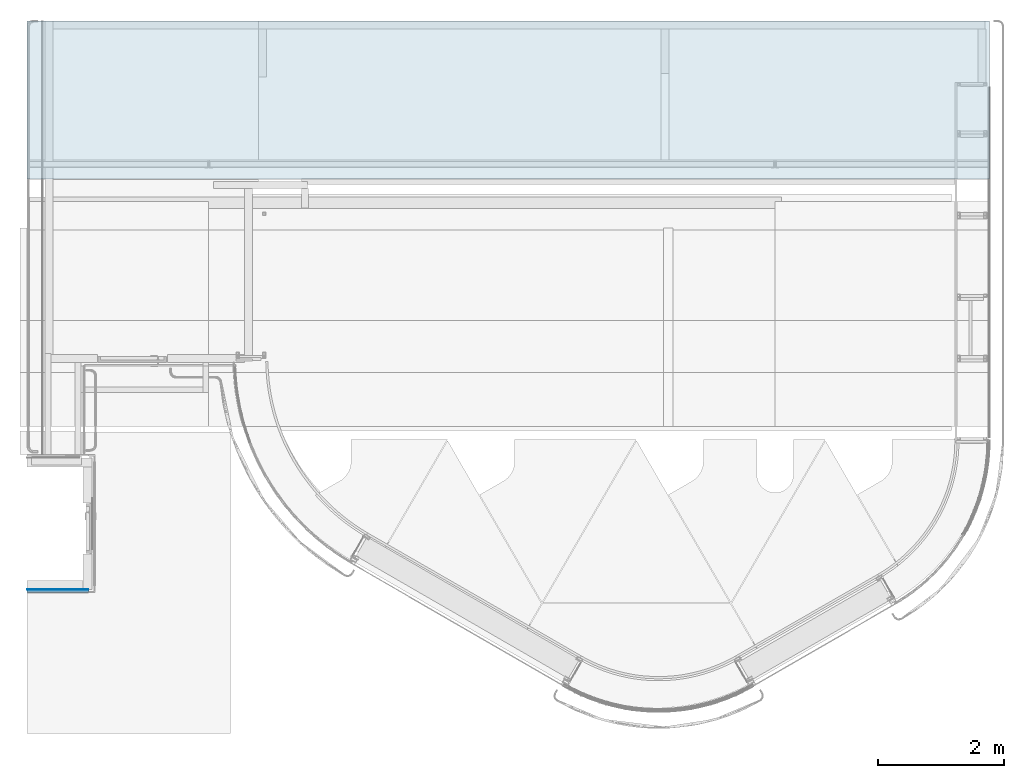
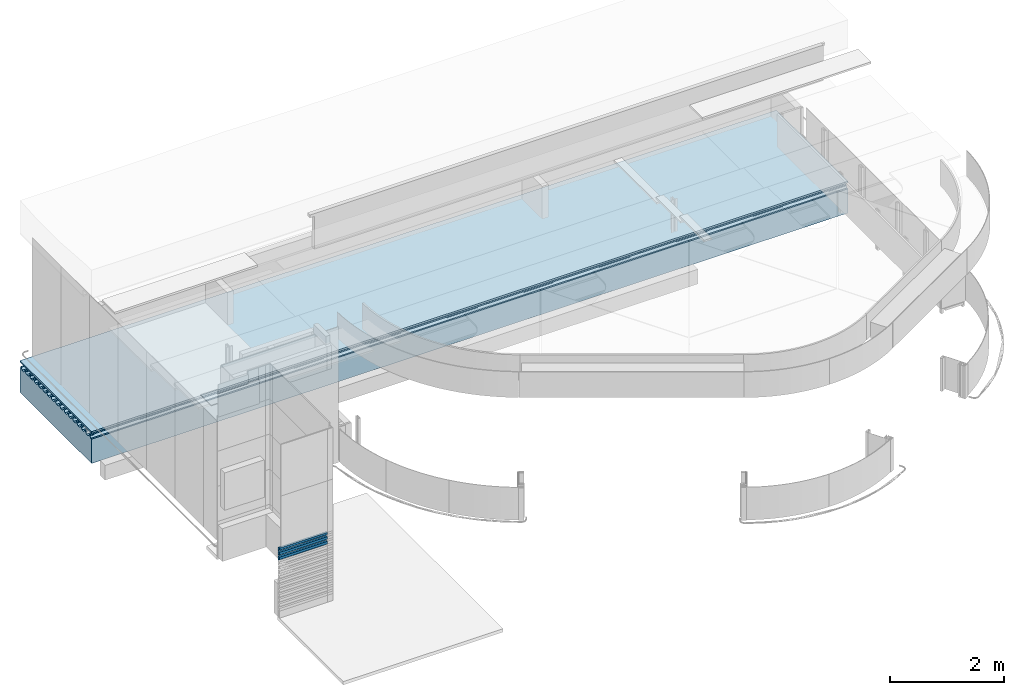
# One storey, part 13 of 18: 6 plates, 1 slab, 1 element without a shape of its own.
"""IFC2X3 building model written with IfcOpenShell, lengths in millimetres."""

import ifcopenshell
import ifcopenshell.guid

model = None  # the IFC model being written
_history = None  # IfcOwnerHistory: only IFC2X3 demands one
_inside = {}  # id of a spatial element -> (the spatial element, [elements in it])
_under = {}  # id of a project, library or spatial element -> (it, [spatial elements below it])
_declared = {}  # id of a project -> (the project, [libraries it declares])
_typed = {}  # id of a type object -> (the type object, [elements of that type])
_made_of = {}  # id of a material, layer set ... -> (it, [elements and type objects made of it])


def new_model(schema):
    """Start an empty IFC model of exactly this schema.

    Asked for "IFC4X3", IfcOpenShell would pick the latest addendum, in which some entities
    have other attributes; the version numbers below select the first issue.
    IFC2X3 requires an IfcOwnerHistory on every rooted entity: one is made here for all.
    """
    global model, _history
    if schema == "IFC4X3":
        model = ifcopenshell.file(schema_version=(4, 3, 0, 0))
    else:
        model = ifcopenshell.file(schema=schema)
    _inside.clear()
    _under.clear()
    _declared.clear()
    _typed.clear()
    _made_of.clear()
    _history = None
    if model.schema == "IFC2X3":
        org = make("IfcOrganization", Name="unknown")
        user = make(
            "IfcPersonAndOrganization",
            ThePerson=make("IfcPerson", FamilyName="unknown"),
            TheOrganization=org,
        )
        app = make(
            "IfcApplication",
            ApplicationDeveloper=org,
            Version="unknown",
            ApplicationFullName="unknown",
            ApplicationIdentifier="unknown",
        )
        _history = make(
            "IfcOwnerHistory",
            OwningUser=user,
            OwningApplication=app,
            ChangeAction="ADDED",
            CreationDate=0,
        )
    return model


def make(cls, **values):
    """One entity of the class cls with the attributes given. An attribute that is None is left unset."""
    return model.create_entity(
        cls, **{name: value for name, value in values.items() if value is not None}
    )


def entity(cls, *values):
    """Any entity or typed value of the class cls, its attributes in the order of the schema. None: left unset."""
    e = model.create_entity(cls)
    for i, value in enumerate(values):
        if value is not None:
            e[i] = value
    return e


def rooted(cls, **values):
    """An entity with a GlobalId (a new one), such as an element, a storey or a relation."""
    return make(cls, GlobalId=ifcopenshell.guid.new(), OwnerHistory=_history, **values)


def si_unit(unit_type, name, prefix=None):
    """IfcSIUnit, for example si_unit("LENGTHUNIT", "METRE", prefix="MILLI")."""
    return make("IfcSIUnit", UnitType=unit_type, Prefix=prefix, Name=name)


def converted_unit(unit_type, name, factor, base, dimensions=None, offset=None):
    """IfcConversionBasedUnit, such as the inch: factor (a typed value) times the base unit."""
    return make(
        "IfcConversionBasedUnit"
        if offset is None
        else "IfcConversionBasedUnitWithOffset",
        ConversionOffset=offset,
        Dimensions=None
        if dimensions is None
        else entity("IfcDimensionalExponents", *dimensions),
        UnitType=unit_type,
        Name=name,
        ConversionFactor=make(
            "IfcMeasureWithUnit", ValueComponent=factor, UnitComponent=base
        ),
    )


def derived_unit(unit_type, elements):
    """IfcDerivedUnit: a product of units, each with its exponent."""
    return make(
        "IfcDerivedUnit",
        Elements=[
            make("IfcDerivedUnitElement", Unit=unit, Exponent=power)
            for unit, power in elements
        ],
        UnitType=unit_type,
    )


def assignment(units):
    """IfcUnitAssignment: the units of a project."""
    return None if units is None else make("IfcUnitAssignment", Units=units)


def point(xyz):
    """IfcCartesianPoint."""
    return None if xyz is None else make("IfcCartesianPoint", Coordinates=xyz)


def direction(xyz):
    """IfcDirection."""
    return None if xyz is None else make("IfcDirection", DirectionRatios=xyz)


def frame(location, z_axis=None, x_axis=None):
    """IfcAxis2Placement3D, a coordinate frame: its origin and axes. An axis left out is left unset."""
    return make(
        "IfcAxis2Placement3D",
        Location=point(location),
        Axis=direction(z_axis),
        RefDirection=direction(x_axis),
    )


def origin_with_axes():
    """The frame at (0, 0, 0) with the z axis (0, 0, 1) and the x axis (1, 0, 0) written out."""
    return frame((0.0, 0.0, 0.0), z_axis=(0.0, 0.0, 1.0), x_axis=(1.0, 0.0, 0.0))


def place(relative_to, where):
    """IfcLocalPlacement: puts the frame where relative to a parent placement (None: the world)."""
    return make(
        "IfcLocalPlacement", PlacementRelTo=relative_to, RelativePlacement=where
    )


def context(
    kind, dimensions, precision=None, world=None, true_north=None, identifier=None
):
    """IfcGeometricRepresentationContext, for example the 3D "Model" context."""
    return make(
        "IfcGeometricRepresentationContext",
        ContextIdentifier=identifier,
        ContextType=kind,
        CoordinateSpaceDimension=dimensions,
        Precision=precision,
        WorldCoordinateSystem=world,
        TrueNorth=true_north,
    )


def subcontext(parent, identifier, kind, view, scale=None):
    """IfcGeometricRepresentationSubContext, for example "Body" below "Model"."""
    return make(
        "IfcGeometricRepresentationSubContext",
        ContextIdentifier=identifier,
        ContextType=kind,
        ParentContext=parent,
        TargetScale=scale,
        TargetView=view,
    )


def project(units=None, contexts=None):
    """IfcProject with its units and contexts."""
    return rooted(
        "IfcProject",
        Name="project",
        RepresentationContexts=contexts,
        UnitsInContext=assignment(units),
    )


def spatial(cls, under=None, at=None, **own):
    """A site, building, storey or space (cls), placed at a placement, below another one or the project."""
    s = rooted(cls, ObjectPlacement=at, **own)
    if under is not None:
        _under.setdefault(under.id(), (under, []))[1].append(s)
    return s


def faces_of(points, faces, orient=None, outer=None):
    """IfcFace entities. A face is a list of loops; a loop is a list of indices into points, from 0.

    orient and outer hold one flag for each loop. By default every Orientation is true, the
    first loop of a face is its IfcFaceOuterBound and the others are IfcFaceBound.
    """
    made = []
    for i, loops in enumerate(faces):
        bounds = []
        for j, loop in enumerate(loops):
            is_outer = j == 0 if outer is None else outer[i][j]
            bounds.append(
                make(
                    "IfcFaceOuterBound" if is_outer else "IfcFaceBound",
                    Bound=make("IfcPolyLoop", Polygon=[points[k] for k in loop]),
                    Orientation=True if orient is None else orient[i][j],
                )
            )
        made.append(make("IfcFace", Bounds=bounds))
    return made


def faceted_brep(points, faces, orient=None, outer=None, voids=None):
    """IfcFacetedBrep: a solid bounded by flat faces; with voids (closed shells), ...WithVoids."""
    shared = [point(p) for p in points]
    hull = make("IfcClosedShell", CfsFaces=faces_of(shared, faces, orient, outer))
    if voids is None:
        return make("IfcFacetedBrep", Outer=hull)
    return make(
        "IfcFacetedBrepWithVoids",
        Outer=hull,
        Voids=[
            make(cls, CfsFaces=faces_of(shared, fs, o, b)) for cls, fs, o, b in voids
        ],
    )


def shape(context_of_items, identifier, shape_type, items):
    """IfcShapeRepresentation: the items that make up one representation, for example the "Body"."""
    return make(
        "IfcShapeRepresentation",
        ContextOfItems=context_of_items,
        RepresentationIdentifier=identifier,
        RepresentationType=shape_type,
        Items=items,
    )


def material(Name=None, Category=None):
    """IfcMaterial."""
    return make("IfcMaterial", Name=Name, Category=Category)


def layer(
    of_material, thickness, ventilated=None, Name=None, Category=None, Priority=None
):
    """IfcMaterialLayer: one layer of a wall or slab, of a material (None: an air gap)."""
    return make(
        "IfcMaterialLayer",
        Material=of_material,
        LayerThickness=thickness,
        IsVentilated=ventilated,
        Name=Name,
        Category=Category,
        Priority=Priority,
    )


def layer_set(layers, Name=None):
    """IfcMaterialLayerSet."""
    return make("IfcMaterialLayerSet", MaterialLayers=layers, LayerSetName=Name)


def made_of(thing, what):
    """Note that an element or type object is made of a material, layer set ...; save() writes the relation."""
    if what is not None:
        _made_of.setdefault(what.id(), (what, []))[1].append(thing)
    return thing


def type_object(cls, material=None, **own):
    """A type object (cls), such as IfcWallType, which elements share."""
    return made_of(rooted(cls, **own), material)


def element(
    cls,
    number,
    at=None,
    inside=None,
    cuts=None,
    type_object=None,
    material=None,
    context=None,
    identifier="Body",
    shape_type=None,
    held_by="IfcProductDefinitionShape",
    body=None,
    shapes=None,
    **own,
):
    """One element of the class cls, such as IfcWall. Its Tag is "e" and its number.

    at: its placement. inside: the storey or other place that contains it. cuts: it is an
    opening in that element (IfcRelVoidsElement). A single representation is given by context,
    identifier, shape_type and body (its items); several are given by shapes. held_by: the class
    of the entity that holds the representations. save() writes the other relations.
    """
    e = rooted(cls, Tag="e%d" % number, ObjectPlacement=at, **own)
    if body is not None:
        shapes = [shape(context, identifier, shape_type, body)]
    if shapes is not None:
        e.Representation = make(held_by, Representations=shapes)
    if inside is not None:
        _inside.setdefault(inside.id(), (inside, []))[1].append(e)
    if cuts is not None:
        rooted(
            "IfcRelVoidsElement", RelatingBuildingElement=cuts, RelatedOpeningElement=e
        )
    if type_object is not None:
        _typed.setdefault(type_object.id(), (type_object, []))[1].append(e)
    return made_of(e, material)


def aggregate(whole, parts):
    """IfcRelAggregates: a whole, such as a stair, and the parts it consists of."""
    return rooted("IfcRelAggregates", RelatingObject=whole, RelatedObjects=parts)


def save(model, path):
    """Write the relations noted so far, then the file.

    IfcRelAggregates (storeys below a building ...), IfcRelContainedInSpatialStructure (elements
    in a storey), IfcRelDefinesByType, IfcRelAssociatesMaterial and IfcRelDeclares: one each for
    every whole, place, type object, material and project.
    """
    for whole, parts in _under.values():
        aggregate(whole, parts)
    for where, things in _inside.values():
        rooted(
            "IfcRelContainedInSpatialStructure",
            RelatedElements=things,
            RelatingStructure=where,
        )
    for kind, things in _typed.values():
        rooted("IfcRelDefinesByType", RelatedObjects=things, RelatingType=kind)
    for what, things in _made_of.values():
        rooted("IfcRelAssociatesMaterial", RelatedObjects=things, RelatingMaterial=what)
    for by, libraries in _declared.values():
        rooted("IfcRelDeclares", RelatingContext=by, RelatedDefinitions=libraries)
    model.write(path)


model = new_model("IFC2X3")

# Units and contexts
model_context = context("Model", 3, precision=0.01, world=frame((0.0, 4.29681676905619e-09, 0.0)), true_north=direction((4.01073788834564e-13, 1.0)))
plan_context = context("Plan", 3, precision=0.01, world=frame((0.0, 4.29681676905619e-09, 0.0)), true_north=direction((4.01073788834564e-13, 1.0)))
body_context = subcontext(model_context, "Body", "Model", "MODEL_VIEW")
ifc_project = project(units=[converted_unit("PLANEANGLEUNIT", "DEGREE", entity("IfcPositiveLengthMeasure", 0.0174532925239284), si_unit("PLANEANGLEUNIT", "RADIAN"), dimensions=[0, 0, 0, 0, 0, 0, 0]), si_unit("AREAUNIT", "SQUARE_METRE"), si_unit("LENGTHUNIT", "METRE", prefix="MILLI"), si_unit("MASSUNIT", "GRAM", prefix="KILO"), si_unit("POWERUNIT", "WATT"), si_unit("PRESSUREUNIT", "PASCAL"), si_unit("FORCEUNIT", "NEWTON", prefix="KILO"), si_unit("ELECTRICVOLTAGEUNIT", "VOLT"), si_unit("ELECTRICCURRENTUNIT", "AMPERE"), si_unit("THERMODYNAMICTEMPERATUREUNIT", "DEGREE_CELSIUS"), si_unit("TIMEUNIT", "SECOND"), si_unit("VOLUMEUNIT", "CUBIC_METRE"), derived_unit("LINEARVELOCITYUNIT", [(si_unit("LENGTHUNIT", "METRE"), 1), (si_unit("TIMEUNIT", "SECOND"), -1)]), derived_unit("VOLUMETRICFLOWRATEUNIT", [(si_unit("VOLUMEUNIT", "CUBIC_METRE"), 1), (si_unit("TIMEUNIT", "SECOND"), -1)]), derived_unit("THERMALTRANSMITTANCEUNIT", [(si_unit("POWERUNIT", "WATT"), 1), (si_unit("THERMODYNAMICTEMPERATUREUNIT", "KELVIN"), -1), (si_unit("AREAUNIT", "SQUARE_METRE"), -1)]), derived_unit("SOUNDPRESSUREUNIT", [(si_unit("PRESSUREUNIT", "PASCAL"), 1)])], contexts=[model_context, plan_context])

# Site, building, storey
site_placement = place(None, origin_with_axes())
site = spatial("IfcSite", under=ifc_project, at=site_placement, Name="ENGM", CompositionType="ELEMENT")
building_placement = place(site_placement, origin_with_axes())
building = spatial("IfcBuilding", under=site, at=building_placement, Name="TH", CompositionType="ELEMENT")
storey_placement = place(building_placement, frame((0.0, 0.0, 210200.0), z_axis=(0.0, 0.0, 1.0), x_axis=(1.0, 0.0, 0.0)))
storey = spatial("IfcBuildingStorey", under=building, at=storey_placement, Name="Nivå F - 0,7 m", CompositionType="ELEMENT", Elevation=210200.0)

# Curtain wall, plates
curtain_wall_type = type_object("IfcCurtainWallType", PredefinedType="NOTDEFINED")
curtain_wall_placement = place(storey_placement, frame((0.0, 0.0, -210200.0), z_axis=(0.0, 0.0, 1.0), x_axis=(1.0, 0.0, 0.0)))
curtain_wall = element("IfcCurtainWall", 1, at=curtain_wall_placement, inside=storey, type_object=curtain_wall_type)
ifc_material_1 = material(Name="T2_Tre Finerplate")
plate_type_1 = type_object("IfcPlateType", Name="System Panel:A245 - Trepanel eksisterende 2", PredefinedType="CURTAIN_PANEL", material=ifc_material_1)
plate_1_placement = place(curtain_wall_placement, frame((893499.999999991, 478322.727283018, 211450.0), z_axis=(0.0, 0.0, 1.0), x_axis=(-1.0, 0.0, 0.0)))
plate_1 = element("IfcPlate", 2, at=plate_1_placement, type_object=plate_type_1, Name="System Panel:A245 - Trepanel eksisterende 2", ObjectType="System Panel:A245 - Trepanel eksisterende 2", context=body_context, shape_type="Brep", body=[
    faceted_brep([(-1611.90616857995, 10.0, 0.0), (-1611.90616857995, 50.0, 0.0), (-2585.00000001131, 50.0, 0.0), (-2585.00000001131, 10.0, 0.0), (-2585.00000001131, 50.0, 55.0000000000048), (-2585.00000001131, 10.0, 55.0000000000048), (-1611.90616857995, 50.0, 55.0000000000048), (-1611.90616857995, 10.0, 55.0000000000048)], [[[0, 1, 2, 3]], [[3, 2, 4, 5]], [[6, 7, 5, 4]], [[7, 0, 3, 5]], [[1, 6, 4, 2]], [[7, 6, 1, 0]]], orient=[[False], [False], [False], [False], [False], [False]]),
])
plate_2_placement = place(curtain_wall_placement, frame((893499.999999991, 478322.727283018, 211550.0), z_axis=(0.0, 0.0, 1.0), x_axis=(-1.0, 0.0, 0.0)))
plate_2 = element("IfcPlate", 3, at=plate_2_placement, type_object=plate_type_1, Name="System Panel:A245 - Trepanel eksisterende 2", ObjectType="System Panel:A245 - Trepanel eksisterende 2", context=body_context, shape_type="Brep", body=[
    faceted_brep([(-1611.90616857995, 10.0, 0.0), (-1611.90616857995, 50.0, 0.0), (-2585.00000001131, 50.0, 0.0), (-2585.00000001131, 10.0, 0.0), (-2585.00000001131, 50.0, 55.0000000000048), (-2585.00000001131, 10.0, 55.0000000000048), (-1611.90616857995, 50.0, 55.0000000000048), (-1611.90616857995, 10.0, 55.0000000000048)], [[[0, 1, 2, 3]], [[3, 2, 4, 5]], [[6, 7, 5, 4]], [[7, 0, 3, 5]], [[1, 6, 4, 2]], [[7, 6, 1, 0]]], orient=[[False], [False], [False], [False], [False], [False]]),
])
ifc_material_2 = material(Name="_NSW Luftspalte")
plate_type_2 = type_object("IfcPlateType", Name="Empty System Panel:A234 - Empty System Panel", PredefinedType="CURTAIN_PANEL", material=ifc_material_2)
plate_3_placement = place(curtain_wall_placement, frame((893499.999999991, 478322.727283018, 211405.0), z_axis=(0.0, 0.0, 1.0), x_axis=(-1.0, 0.0, 0.0)))
plate_3 = element("IfcPlate", 4, at=plate_3_placement, type_object=plate_type_2, Name="Empty System Panel:A234 - Empty System Panel", ObjectType="Empty System Panel:A234 - Empty System Panel", context=body_context, shape_type="Brep", body=[
    faceted_brep([(-1611.90616857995, -0.5, 0.0), (-1611.90616857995, 0.5, 0.0), (-2585.00000001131, 0.5, 0.0), (-2585.00000001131, -0.5, 0.0), (-2585.00000001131, 0.5, 45.0000000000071), (-2585.00000001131, -0.5, 45.0000000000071), (-1611.90616857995, 0.5, 45.0000000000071), (-1611.90616857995, -0.5, 45.0000000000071)], [[[0, 1, 2, 3]], [[3, 2, 4, 5]], [[6, 7, 5, 4]], [[7, 0, 3, 5]], [[1, 6, 4, 2]], [[7, 6, 1, 0]]], orient=[[False], [False], [False], [False], [False], [False]]),
])
plate_4_placement = place(curtain_wall_placement, frame((893499.999999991, 478322.727283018, 211505.0), z_axis=(0.0, 0.0, 1.0), x_axis=(-1.0, 0.0, 0.0)))
plate_4 = element("IfcPlate", 5, at=plate_4_placement, type_object=plate_type_2, Name="Empty System Panel:A234 - Empty System Panel", ObjectType="Empty System Panel:A234 - Empty System Panel", context=body_context, shape_type="Brep", body=[
    faceted_brep([(-1611.90616857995, -0.5, 0.0), (-1611.90616857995, 0.5, 0.0), (-2585.00000001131, 0.5, 0.0), (-2585.00000001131, -0.5, 0.0), (-2585.00000001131, 0.5, 45.0000000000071), (-2585.00000001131, -0.5, 45.0000000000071), (-1611.90616857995, 0.5, 45.0000000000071), (-1611.90616857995, -0.5, 45.0000000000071)], [[[0, 1, 2, 3]], [[3, 2, 4, 5]], [[6, 7, 5, 4]], [[7, 0, 3, 5]], [[1, 6, 4, 2]], [[7, 6, 1, 0]]], orient=[[False], [False], [False], [False], [False], [False]]),
])
plate_5_placement = place(curtain_wall_placement, frame((893499.999999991, 478322.727283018, 211605.0), z_axis=(0.0, 0.0, 1.0), x_axis=(-1.0, 0.0, 0.0)))
plate_5 = element("IfcPlate", 6, at=plate_5_placement, type_object=plate_type_2, Name="Empty System Panel:A234 - Empty System Panel", ObjectType="Empty System Panel:A234 - Empty System Panel", context=body_context, shape_type="Brep", body=[
    faceted_brep([(-1611.90616857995, -0.5, 0.0), (-1611.90616857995, 0.5, 0.0), (-2585.00000001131, 0.5, 0.0), (-2585.00000001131, -0.5, 0.0), (-2585.00000001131, 0.5, 45.0000000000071), (-2585.00000001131, -0.5, 45.0000000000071), (-1611.90616857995, 0.5, 45.0000000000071), (-1611.90616857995, -0.5, 45.0000000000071)], [[[0, 1, 2, 3]], [[3, 2, 4, 5]], [[6, 7, 5, 4]], [[7, 0, 3, 5]], [[1, 6, 4, 2]], [[7, 6, 1, 0]]], orient=[[False], [False], [False], [False], [False], [False]]),
])
plate_type_3 = type_object("IfcPlateType", Name="System Panel:A245 - Trepanel eksisterende 2", PredefinedType="CURTAIN_PANEL", material=ifc_material_1)
plate_6_placement = place(curtain_wall_placement, frame((893499.999999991, 478322.727283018, 211650.0), z_axis=(0.0, 0.0, 1.0), x_axis=(-1.0, 0.0, 0.0)))
plate_6 = element("IfcPlate", 7, at=plate_6_placement, type_object=plate_type_3, Name="System Panel:A245 - Trepanel eksisterende 2", ObjectType="System Panel:A245 - Trepanel eksisterende 2", context=body_context, shape_type="Brep", body=[
    faceted_brep([(-1611.90616857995, 10.0, 0.0), (-1611.90616857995, 50.0, 0.0), (-2585.00000001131, 50.0, 0.0), (-2585.00000001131, 10.0, 0.0), (-2585.00000001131, 50.0, 45.0000000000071), (-2585.00000001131, 10.0, 45.0000000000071), (-1611.90616857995, 50.0, 45.0000000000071), (-1611.90616857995, 10.0, 45.0000000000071)], [[[0, 1, 2, 3]], [[3, 2, 4, 5]], [[6, 7, 5, 4]], [[7, 0, 3, 5]], [[1, 6, 4, 2]], [[7, 6, 1, 0]]], orient=[[False], [False], [False], [False], [False], [False]]),
])
aggregate(curtain_wall, [plate_3, plate_1, plate_4, plate_2, plate_5, plate_6])

# Slab
ifc_material_3 = material(Name="254 - Gulvoverflate - Limtre")
ifc_layer_1 = layer(ifc_material_3, 15.0)
ifc_material_4 = material(Name="254 - Gulvoppbygging - Påstøp")
ifc_layer_2 = layer(ifc_material_4, 20.0)
ifc_material_5 = material(Name="252 - Gulv på grunn - Isolasjon under dekke")
ifc_layer_3 = layer(ifc_material_5, 125.0)
ifc_material_6 = material(Name="252 - Gulv på grunn -  Brannisolasjon R90")
ifc_layer_4 = layer(ifc_material_6, 25.0)
ifc_material_7 = material(Name="252 - Gulv på grunn -  Bindingsverk med isolasjon")
ifc_layer_5 = layer(ifc_material_7, 220.0)
ifc_layer_6 = layer(ifc_material_7, 150.0)
ifc_material_8 = material(Name="252 - Gulv på grunn - GU-Plate")
ifc_layer_7 = layer(ifc_material_8, 9.0)
ifc_material_9 = material(Name="252 - Gulv på grunn - Luftspalte")
ifc_layer_8 = layer(ifc_material_9, 116.0)
ifc_layer_set = layer_set([ifc_layer_1, ifc_layer_2, ifc_layer_3, ifc_layer_4, ifc_layer_5, ifc_layer_6, ifc_layer_7, ifc_layer_8], Name="Floor:A250 - Gulv - 550mm")
slab_type = type_object("IfcSlabType", Name="Floor:A250 - Gulv - 550mm", PredefinedType="FLOOR", material=ifc_layer_set)
slab_placement = place(storey_placement, frame((895111.906168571, 484850.299999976, -680.0), z_axis=(0.0, 0.0, 1.0), x_axis=(1.0, 0.0, 0.0)))
element("IfcSlab", 8, at=slab_placement, inside=storey, type_object=slab_type, Name="Floor:A250 - Gulv - 550mm", ObjectType="Floor:A250 - Gulv - 550mm", PredefinedType="FLOOR", context=body_context, shape_type="Brep", body=[
    faceted_brep([(2.48292053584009e-10, 2507.35000003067, 644.999999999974), (2.48292053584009e-10, 2507.35000003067, 680.0), (-6.91215973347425e-11, 3.45607986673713e-11, 680.0), (-6.91215973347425e-11, 3.45607986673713e-11, 644.999999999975), (2.48292053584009e-10, 2507.35000003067, 1.61435309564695e-11), (2.48292053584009e-10, 2507.35000003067, 534.035590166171), (-7.09405867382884e-11, 2490.99702604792, 550.388564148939), (-7.09405867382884e-11, 2498.49435030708, 557.885888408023), (-7.09405867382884e-11, 2490.32530468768, 566.054934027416), (-7.09405867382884e-11, 2459.61724706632, 566.054934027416), (-7.09405867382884e-11, 2451.44820144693, 557.885888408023), (-7.09405867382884e-11, 2458.94552570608, 550.388564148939), (-7.09405867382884e-11, 2429.26406833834, 520.707106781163), (-7.09405867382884e-11, 2370.67848341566, 520.707106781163), (-7.09405867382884e-11, 2340.99702604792, 550.388564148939), (-7.09405867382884e-11, 2348.49435030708, 557.885888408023), (-7.09405867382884e-11, 2340.32530468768, 566.054934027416), (-7.09405867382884e-11, 2309.61724706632, 566.054934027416), (-7.09405867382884e-11, 2301.44820144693, 557.885888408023), (-7.09405867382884e-11, 2308.94552570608, 550.388564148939), (-7.09405867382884e-11, 2279.26406833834, 520.707106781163), (-7.09405867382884e-11, 2220.67848341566, 520.707106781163), (-7.09405867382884e-11, 2190.99702604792, 550.388564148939), (-7.09405867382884e-11, 2198.49435030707, 557.885888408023), (-7.09405867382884e-11, 2190.32530468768, 566.054934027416), (-7.09405867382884e-11, 2159.61724706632, 566.054934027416), (-7.09405867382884e-11, 2151.44820144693, 557.885888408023), (-7.09405867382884e-11, 2158.94552570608, 550.388564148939), (-7.09405867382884e-11, 2129.26406833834, 520.707106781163), (-7.09405867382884e-11, 2070.67848341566, 520.707106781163), (-7.09405867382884e-11, 2040.99702604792, 550.388564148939), (-7.09405867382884e-11, 2048.49435030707, 557.885888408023), (-7.09405867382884e-11, 2040.32530468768, 566.054934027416), (-7.09405867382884e-11, 2009.61724706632, 566.054934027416), (-7.09405867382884e-11, 2001.44820144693, 557.885888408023), (-7.09405867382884e-11, 2008.94552570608, 550.388564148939), (-7.09405867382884e-11, 1979.26406833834, 520.707106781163), (-7.09405867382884e-11, 1920.67848341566, 520.707106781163), (-7.09405867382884e-11, 1890.99702604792, 550.388564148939), (-7.09405867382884e-11, 1898.49435030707, 557.885888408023), (-7.09405867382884e-11, 1890.32530468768, 566.054934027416), (-7.09405867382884e-11, 1859.61724706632, 566.054934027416), (-7.09405867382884e-11, 1851.44820144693, 557.885888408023), (-7.09405867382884e-11, 1858.94552570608, 550.388564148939), (-7.09405867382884e-11, 1829.26406833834, 520.707106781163), (-7.09405867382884e-11, 1770.67848341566, 520.707106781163), (-7.09405867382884e-11, 1740.99702604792, 550.388564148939), (-7.09405867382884e-11, 1748.49435030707, 557.885888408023), (-7.09405867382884e-11, 1740.32530468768, 566.054934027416), (-7.09405867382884e-11, 1709.61724706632, 566.054934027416), (-7.09405867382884e-11, 1701.44820144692, 557.885888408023), (-7.09405867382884e-11, 1708.94552570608, 550.388564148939), (-7.09405867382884e-11, 1679.26406833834, 520.707106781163), (-7.09405867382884e-11, 1620.67848341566, 520.707106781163), (-7.09405867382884e-11, 1590.99702604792, 550.388564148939), (-7.09405867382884e-11, 1598.49435030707, 557.885888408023), (-7.09405867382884e-11, 1590.32530468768, 566.054934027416), (-7.09405867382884e-11, 1559.61724706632, 566.054934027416), (-7.09405867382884e-11, 1551.44820144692, 557.885888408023), (-7.09405867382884e-11, 1558.94552570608, 550.388564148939), (-7.09405867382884e-11, 1529.26406833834, 520.707106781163), (-7.09405867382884e-11, 1470.67848341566, 520.707106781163), (-7.09405867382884e-11, 1440.99702604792, 550.388564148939), (-7.09405867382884e-11, 1448.49435030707, 557.885888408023), (-7.09405867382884e-11, 1440.32530468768, 566.054934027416), (-7.09405867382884e-11, 1409.61724706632, 566.054934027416), (-7.09405867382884e-11, 1401.44820144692, 557.885888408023), (-7.09405867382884e-11, 1408.94552570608, 550.388564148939), (-7.09405867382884e-11, 1379.26406833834, 520.707106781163), (-7.09405867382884e-11, 1320.67848341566, 520.707106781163), (-7.09405867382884e-11, 1290.99702604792, 550.388564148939), (-7.09405867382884e-11, 1298.49435030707, 557.885888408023), (-7.09405867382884e-11, 1290.32530468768, 566.054934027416), (-7.09405867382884e-11, 1259.61724706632, 566.054934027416), (-7.09405867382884e-11, 1251.44820144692, 557.885888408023), (-7.09405867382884e-11, 1258.94552570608, 550.388564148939), (-7.09405867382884e-11, 1229.26406833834, 520.707106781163), (-7.09405867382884e-11, 1170.67848341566, 520.707106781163), (-7.09405867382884e-11, 1140.99702604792, 550.388564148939), (-7.09405867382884e-11, 1148.49435030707, 557.885888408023), (-7.09405867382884e-11, 1140.32530468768, 566.054934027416), (-7.09405867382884e-11, 1109.61724706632, 566.054934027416), (-7.09405867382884e-11, 1101.44820144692, 557.885888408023), (-7.09405867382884e-11, 1108.94552570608, 550.388564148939), (-7.09405867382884e-11, 1079.26406833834, 520.707106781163), (-7.09405867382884e-11, 1020.67848341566, 520.707106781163), (-7.09405867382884e-11, 990.997026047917, 550.388564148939), (-7.09405867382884e-11, 998.494350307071, 557.885888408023), (-7.09405867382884e-11, 990.325304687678, 566.054934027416), (-7.09405867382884e-11, 959.617247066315, 566.054934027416), (-7.09405867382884e-11, 951.448201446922, 557.885888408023), (-7.09405867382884e-11, 958.945525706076, 550.388564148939), (-7.09405867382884e-11, 929.264068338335, 520.707106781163), (-7.09405867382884e-11, 870.678483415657, 520.707106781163), (-7.09405867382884e-11, 840.997026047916, 550.388564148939), (-7.09405867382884e-11, 848.49435030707, 557.885888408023), (-7.09405867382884e-11, 840.325304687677, 566.054934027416), (-7.09405867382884e-11, 809.617247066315, 566.054934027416), (-7.09405867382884e-11, 801.448201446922, 557.885888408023), (-7.09405867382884e-11, 808.945525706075, 550.388564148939), (-7.09405867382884e-11, 779.264068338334, 520.707106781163), (-7.09405867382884e-11, 720.678483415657, 520.707106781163), (-7.09405867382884e-11, 690.997026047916, 550.388564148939), (-7.09405867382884e-11, 698.494350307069, 557.885888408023), (-7.09405867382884e-11, 690.325304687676, 566.054934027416), (-7.09405867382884e-11, 659.617247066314, 566.054934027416), (-7.09405867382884e-11, 651.448201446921, 557.885888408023), (-7.09405867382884e-11, 658.945525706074, 550.388564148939), (-7.09405867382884e-11, 629.264068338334, 520.707106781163), (-7.09405867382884e-11, 570.678483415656, 520.707106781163), (-7.09405867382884e-11, 540.997026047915, 550.388564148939), (-7.09405867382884e-11, 548.494350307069, 557.885888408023), (-7.09405867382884e-11, 540.325304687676, 566.054934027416), (-7.09405867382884e-11, 509.617247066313, 566.054934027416), (-7.09405867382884e-11, 501.44820144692, 557.885888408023), (-7.09405867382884e-11, 508.945525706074, 550.388564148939), (-7.09405867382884e-11, 479.264068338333, 520.707106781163), (-7.09405867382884e-11, 420.678483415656, 520.707106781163), (-7.09405867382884e-11, 390.997026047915, 550.388564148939), (-7.09405867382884e-11, 398.494350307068, 557.885888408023), (-7.09405867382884e-11, 390.325304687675, 566.054934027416), (-7.09405867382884e-11, 359.617247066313, 566.054934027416), (-7.09405867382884e-11, 351.44820144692, 557.885888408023), (-7.09405867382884e-11, 358.945525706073, 550.388564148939), (-7.09405867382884e-11, 329.264068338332, 520.707106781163), (-7.09405867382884e-11, 270.678483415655, 520.707106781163), (-7.09405867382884e-11, 240.997026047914, 550.388564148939), (-7.09405867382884e-11, 248.494350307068, 557.885888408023), (-7.09405867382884e-11, 240.325304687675, 566.054934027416), (-7.09405867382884e-11, 209.617247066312, 566.054934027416), (-7.09405867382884e-11, 201.448201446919, 557.885888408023), (-7.09405867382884e-11, 208.945525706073, 550.388564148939), (-7.09405867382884e-11, 179.264068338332, 520.707106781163), (-7.09405867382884e-11, 120.678483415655, 520.707106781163), (-7.09405867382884e-11, 90.997026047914, 550.388564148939), (-7.09405867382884e-11, 98.4943503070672, 557.885888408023), (-7.09405867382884e-11, 90.3253046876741, 566.054934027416), (-7.09405867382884e-11, 59.6172470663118, 566.054934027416), (-7.09405867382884e-11, 51.4482014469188, 557.885888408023), (-7.09405867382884e-11, 58.9455257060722, 550.388564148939), (-7.09405867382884e-11, 28.5676785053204, 520.010716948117), (-6.91215973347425e-11, 3.45607986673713e-11, 520.010716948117), (-6.91215973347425e-11, 3.45607986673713e-11, 1.60298441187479e-11), (15298.6786732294, 3.45607986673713e-11, 680.0), (15298.6786732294, 3.45607986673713e-11, 644.999999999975), (15298.6786732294, 3.45607986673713e-11, 520.010716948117), (15298.6786732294, 3.45607986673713e-11, 1.60298441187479e-11), (15298.6786732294, 2507.35000003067, 680.0), (15298.6786732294, 2507.35000003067, 1.61435309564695e-11), (15298.6786732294, 2507.35000003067, 644.999999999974), (15298.6786732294, 28.5676785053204, 520.010716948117), (15298.6786732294, 58.9455257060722, 550.388564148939), (15298.6786732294, 51.4482014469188, 557.885888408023), (15298.6786732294, 59.6172470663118, 566.054934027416), (15298.6786732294, 90.3253046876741, 566.054934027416), (15298.6786732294, 98.4943503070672, 557.885888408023), (15298.6786732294, 90.997026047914, 550.388564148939), (15298.6786732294, 120.678483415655, 520.707106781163), (15298.6786732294, 179.264068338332, 520.707106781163), (15298.6786732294, 208.945525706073, 550.388564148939), (15298.6786732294, 201.448201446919, 557.885888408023), (15298.6786732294, 209.617247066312, 566.054934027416), (15298.6786732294, 240.325304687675, 566.054934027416), (15298.6786732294, 248.494350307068, 557.885888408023), (15298.6786732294, 240.997026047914, 550.388564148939), (15298.6786732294, 270.678483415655, 520.707106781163), (15298.6786732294, 329.264068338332, 520.707106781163), (15298.6786732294, 358.945525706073, 550.388564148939), (15298.6786732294, 351.44820144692, 557.885888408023), (15298.6786732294, 359.617247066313, 566.054934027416), (15298.6786732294, 390.325304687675, 566.054934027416), (15298.6786732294, 398.494350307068, 557.885888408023), (15298.6786732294, 390.997026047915, 550.388564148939), (15298.6786732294, 420.678483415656, 520.707106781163), (15298.6786732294, 479.264068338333, 520.707106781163), (15298.6786732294, 508.945525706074, 550.388564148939), (15298.6786732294, 501.44820144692, 557.885888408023), (15298.6786732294, 509.617247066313, 566.054934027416), (15298.6786732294, 540.325304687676, 566.054934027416), (15298.6786732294, 548.494350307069, 557.885888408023), (15298.6786732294, 540.997026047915, 550.388564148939), (15298.6786732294, 570.678483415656, 520.707106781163), (15298.6786732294, 629.264068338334, 520.707106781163), (15298.6786732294, 658.945525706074, 550.388564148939), (15298.6786732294, 651.448201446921, 557.885888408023), (15298.6786732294, 659.617247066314, 566.054934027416), (15298.6786732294, 690.325304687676, 566.054934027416), (15298.6786732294, 698.494350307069, 557.885888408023), (15298.6786732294, 690.997026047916, 550.388564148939), (15298.6786732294, 720.678483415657, 520.707106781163), (15298.6786732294, 779.264068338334, 520.707106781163), (15298.6786732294, 808.945525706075, 550.388564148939), (15298.6786732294, 801.448201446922, 557.885888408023), (15298.6786732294, 809.617247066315, 566.054934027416), (15298.6786732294, 840.325304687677, 566.054934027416), (15298.6786732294, 848.49435030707, 557.885888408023), (15298.6786732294, 840.997026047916, 550.388564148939), (15298.6786732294, 870.678483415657, 520.707106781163), (15298.6786732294, 929.264068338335, 520.707106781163), (15298.6786732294, 958.945525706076, 550.388564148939), (15298.6786732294, 951.448201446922, 557.885888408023), (15298.6786732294, 959.617247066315, 566.054934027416), (15298.6786732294, 990.325304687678, 566.054934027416), (15298.6786732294, 998.494350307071, 557.885888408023), (15298.6786732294, 990.997026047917, 550.388564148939), (15298.6786732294, 1020.67848341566, 520.707106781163), (15298.6786732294, 1079.26406833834, 520.707106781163), (15298.6786732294, 1108.94552570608, 550.388564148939), (15298.6786732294, 1101.44820144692, 557.885888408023), (15298.6786732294, 1109.61724706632, 566.054934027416), (15298.6786732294, 1140.32530468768, 566.054934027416), (15298.6786732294, 1148.49435030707, 557.885888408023), (15298.6786732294, 1140.99702604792, 550.388564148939), (15298.6786732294, 1170.67848341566, 520.707106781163), (15298.6786732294, 1229.26406833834, 520.707106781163), (15298.6786732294, 1258.94552570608, 550.388564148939), (15298.6786732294, 1251.44820144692, 557.885888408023), (15298.6786732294, 1259.61724706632, 566.054934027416), (15298.6786732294, 1290.32530468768, 566.054934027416), (15298.6786732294, 1298.49435030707, 557.885888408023), (15298.6786732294, 1290.99702604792, 550.388564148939), (15298.6786732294, 1320.67848341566, 520.707106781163), (15298.6786732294, 1379.26406833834, 520.707106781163), (15298.6786732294, 1408.94552570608, 550.388564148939), (15298.6786732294, 1401.44820144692, 557.885888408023), (15298.6786732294, 1409.61724706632, 566.054934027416), (15298.6786732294, 1440.32530468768, 566.054934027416), (15298.6786732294, 1448.49435030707, 557.885888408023), (15298.6786732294, 1440.99702604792, 550.388564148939), (15298.6786732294, 1470.67848341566, 520.707106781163), (15298.6786732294, 1529.26406833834, 520.707106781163), (15298.6786732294, 1558.94552570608, 550.388564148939), (15298.6786732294, 1551.44820144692, 557.885888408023), (15298.6786732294, 1559.61724706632, 566.054934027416), (15298.6786732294, 1590.32530468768, 566.054934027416), (15298.6786732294, 1598.49435030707, 557.885888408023), (15298.6786732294, 1590.99702604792, 550.388564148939), (15298.6786732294, 1620.67848341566, 520.707106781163), (15298.6786732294, 1679.26406833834, 520.707106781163), (15298.6786732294, 1708.94552570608, 550.388564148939), (15298.6786732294, 1701.44820144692, 557.885888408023), (15298.6786732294, 1709.61724706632, 566.054934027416), (15298.6786732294, 1740.32530468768, 566.054934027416), (15298.6786732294, 1748.49435030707, 557.885888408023), (15298.6786732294, 1740.99702604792, 550.388564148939), (15298.6786732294, 1770.67848341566, 520.707106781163), (15298.6786732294, 1829.26406833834, 520.707106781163), (15298.6786732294, 1858.94552570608, 550.388564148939), (15298.6786732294, 1851.44820144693, 557.885888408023), (15298.6786732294, 1859.61724706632, 566.054934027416), (15298.6786732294, 1890.32530468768, 566.054934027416), (15298.6786732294, 1898.49435030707, 557.885888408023), (15298.6786732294, 1890.99702604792, 550.388564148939), (15298.6786732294, 1920.67848341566, 520.707106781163), (15298.6786732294, 1979.26406833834, 520.707106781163), (15298.6786732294, 2008.94552570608, 550.388564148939), (15298.6786732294, 2001.44820144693, 557.885888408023), (15298.6786732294, 2009.61724706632, 566.054934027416), (15298.6786732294, 2040.32530468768, 566.054934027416), (15298.6786732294, 2048.49435030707, 557.885888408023), (15298.6786732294, 2040.99702604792, 550.388564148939), (15298.6786732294, 2070.67848341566, 520.707106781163), (15298.6786732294, 2129.26406833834, 520.707106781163), (15298.6786732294, 2158.94552570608, 550.388564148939), (15298.6786732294, 2151.44820144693, 557.885888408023), (15298.6786732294, 2159.61724706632, 566.054934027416), (15298.6786732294, 2190.32530468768, 566.054934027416), (15298.6786732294, 2198.49435030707, 557.885888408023), (15298.6786732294, 2190.99702604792, 550.388564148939), (15298.6786732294, 2220.67848341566, 520.707106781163), (15298.6786732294, 2279.26406833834, 520.707106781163), (15298.6786732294, 2308.94552570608, 550.388564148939), (15298.6786732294, 2301.44820144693, 557.885888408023), (15298.6786732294, 2309.61724706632, 566.054934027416), (15298.6786732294, 2340.32530468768, 566.054934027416), (15298.6786732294, 2348.49435030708, 557.885888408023), (15298.6786732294, 2340.99702604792, 550.388564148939), (15298.6786732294, 2370.67848341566, 520.707106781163), (15298.6786732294, 2429.26406833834, 520.707106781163), (15298.6786732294, 2458.94552570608, 550.388564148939), (15298.6786732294, 2451.44820144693, 557.885888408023), (15298.6786732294, 2459.61724706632, 566.054934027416), (15298.6786732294, 2490.32530468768, 566.054934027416), (15298.6786732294, 2498.49435030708, 557.885888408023), (15298.6786732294, 2490.99702604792, 550.388564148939), (15298.6786732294, 2507.35000003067, 534.035590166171)], [[[0, 1, 2, 3]], [[4, 5, 6, 7, 8, 9, 10, 11, 12, 13, 14, 15, 16, 17, 18, 19, 20, 21, 22, 23, 24, 25, 26, 27, 28, 29, 30, 31, 32, 33, 34, 35, 36, 37, 38, 39, 40, 41, 42, 43, 44, 45, 46, 47, 48, 49, 50, 51, 52, 53, 54, 55, 56, 57, 58, 59, 60, 61, 62, 63, 64, 65, 66, 67, 68, 69, 70, 71, 72, 73, 74, 75, 76, 77, 78, 79, 80, 81, 82, 83, 84, 85, 86, 87, 88, 89, 90, 91, 92, 93, 94, 95, 96, 97, 98, 99, 100, 101, 102, 103, 104, 105, 106, 107, 108, 109, 110, 111, 112, 113, 114, 115, 116, 117, 118, 119, 120, 121, 122, 123, 124, 125, 126, 127, 128, 129, 130, 131, 132, 133, 134, 135, 136, 137, 138, 139, 140, 141, 142]], [[143, 144, 3, 2]], [[145, 146, 142, 141]], [[1, 147, 143, 2]], [[146, 148, 4, 142]], [[144, 149, 0, 3]], [[150, 145, 141, 140]], [[151, 150, 140, 139]], [[152, 151, 139, 138]], [[153, 152, 138, 137]], [[154, 153, 137, 136]], [[155, 154, 136, 135]], [[156, 155, 135, 134]], [[157, 156, 134, 133]], [[158, 157, 133, 132]], [[159, 158, 132, 131]], [[160, 159, 131, 130]], [[161, 160, 130, 129]], [[162, 161, 129, 128]], [[163, 162, 128, 127]], [[164, 163, 127, 126]], [[165, 164, 126, 125]], [[166, 165, 125, 124]], [[167, 166, 124, 123]], [[168, 167, 123, 122]], [[169, 168, 122, 121]], [[170, 169, 121, 120]], [[171, 170, 120, 119]], [[172, 171, 119, 118]], [[173, 172, 118, 117]], [[174, 173, 117, 116]], [[175, 174, 116, 115]], [[176, 175, 115, 114]], [[177, 176, 114, 113]], [[178, 177, 113, 112]], [[179, 178, 112, 111]], [[180, 179, 111, 110]], [[181, 180, 110, 109]], [[182, 181, 109, 108]], [[183, 182, 108, 107]], [[184, 183, 107, 106]], [[185, 184, 106, 105]], [[186, 185, 105, 104]], [[187, 186, 104, 103]], [[188, 187, 103, 102]], [[189, 188, 102, 101]], [[190, 189, 101, 100]], [[191, 190, 100, 99]], [[192, 191, 99, 98]], [[193, 192, 98, 97]], [[194, 193, 97, 96]], [[195, 194, 96, 95]], [[196, 195, 95, 94]], [[197, 196, 94, 93]], [[198, 197, 93, 92]], [[199, 198, 92, 91]], [[200, 199, 91, 90]], [[201, 200, 90, 89]], [[202, 201, 89, 88]], [[203, 202, 88, 87]], [[204, 203, 87, 86]], [[205, 204, 86, 85]], [[206, 205, 85, 84]], [[207, 206, 84, 83]], [[208, 207, 83, 82]], [[209, 208, 82, 81]], [[210, 209, 81, 80]], [[211, 210, 80, 79]], [[212, 211, 79, 78]], [[213, 212, 78, 77]], [[214, 213, 77, 76]], [[215, 214, 76, 75]], [[216, 215, 75, 74]], [[217, 216, 74, 73]], [[218, 217, 73, 72]], [[219, 218, 72, 71]], [[220, 219, 71, 70]], [[221, 220, 70, 69]], [[222, 221, 69, 68]], [[223, 222, 68, 67]], [[224, 223, 67, 66]], [[225, 224, 66, 65]], [[226, 225, 65, 64]], [[227, 226, 64, 63]], [[228, 227, 63, 62]], [[229, 228, 62, 61]], [[230, 229, 61, 60]], [[231, 230, 60, 59]], [[232, 231, 59, 58]], [[233, 232, 58, 57]], [[234, 233, 57, 56]], [[235, 234, 56, 55]], [[236, 235, 55, 54]], [[237, 236, 54, 53]], [[238, 237, 53, 52]], [[239, 238, 52, 51]], [[240, 239, 51, 50]], [[241, 240, 50, 49]], [[242, 241, 49, 48]], [[243, 242, 48, 47]], [[244, 243, 47, 46]], [[245, 244, 46, 45]], [[246, 245, 45, 44]], [[247, 246, 44, 43]], [[248, 247, 43, 42]], [[249, 248, 42, 41]], [[250, 249, 41, 40]], [[251, 250, 40, 39]], [[252, 251, 39, 38]], [[253, 252, 38, 37]], [[254, 253, 37, 36]], [[255, 254, 36, 35]], [[256, 255, 35, 34]], [[257, 256, 34, 33]], [[258, 257, 33, 32]], [[259, 258, 32, 31]], [[260, 259, 31, 30]], [[261, 260, 30, 29]], [[262, 261, 29, 28]], [[263, 262, 28, 27]], [[264, 263, 27, 26]], [[265, 264, 26, 25]], [[266, 265, 25, 24]], [[267, 266, 24, 23]], [[268, 267, 23, 22]], [[269, 268, 22, 21]], [[270, 269, 21, 20]], [[271, 270, 20, 19]], [[272, 271, 19, 18]], [[273, 272, 18, 17]], [[274, 273, 17, 16]], [[275, 274, 16, 15]], [[276, 275, 15, 14]], [[277, 276, 14, 13]], [[278, 277, 13, 12]], [[279, 278, 12, 11]], [[280, 279, 11, 10]], [[281, 280, 10, 9]], [[282, 281, 9, 8]], [[283, 282, 8, 7]], [[284, 283, 7, 6]], [[5, 285, 284, 6]], [[149, 144, 143, 147]], [[148, 146, 145, 150, 151, 152, 153, 154, 155, 156, 157, 158, 159, 160, 161, 162, 163, 164, 165, 166, 167, 168, 169, 170, 171, 172, 173, 174, 175, 176, 177, 178, 179, 180, 181, 182, 183, 184, 185, 186, 187, 188, 189, 190, 191, 192, 193, 194, 195, 196, 197, 198, 199, 200, 201, 202, 203, 204, 205, 206, 207, 208, 209, 210, 211, 212, 213, 214, 215, 216, 217, 218, 219, 220, 221, 222, 223, 224, 225, 226, 227, 228, 229, 230, 231, 232, 233, 234, 235, 236, 237, 238, 239, 240, 241, 242, 243, 244, 245, 246, 247, 248, 249, 250, 251, 252, 253, 254, 255, 256, 257, 258, 259, 260, 261, 262, 263, 264, 265, 266, 267, 268, 269, 270, 271, 272, 273, 274, 275, 276, 277, 278, 279, 280, 281, 282, 283, 284, 285]], [[147, 1, 0, 149]], [[285, 5, 4, 148]]], orient=[[False], [False], [False], [False], [False], [False], [False], [False], [False], [False], [False], [False], [False], [False], [False], [False], [False], [False], [False], [False], [False], [False], [False], [False], [False], [False], [False], [False], [False], [False], [False], [False], [False], [False], [False], [False], [False], [False], [False], [False], [False], [False], [False], [False], [False], [False], [False], [False], [False], [False], [False], [False], [False], [False], [False], [False], [False], [False], [False], [False], [False], [False], [False], [False], [False], [False], [False], [False], [False], [False], [False], [False], [False], [False], [False], [False], [False], [False], [False], [False], [False], [False], [False], [False], [False], [False], [False], [False], [False], [False], [False], [False], [False], [False], [False], [False], [False], [False], [False], [False], [False], [False], [False], [False], [False], [False], [False], [False], [False], [False], [False], [False], [False], [False], [False], [False], [False], [False], [False], [False], [False], [False], [False], [False], [False], [False], [False], [False], [False], [False], [False], [False], [False], [False], [False], [False], [False], [False], [False], [False], [False], [False], [False], [False], [False], [False], [False]]),
])

save(model, "model.ifc")
